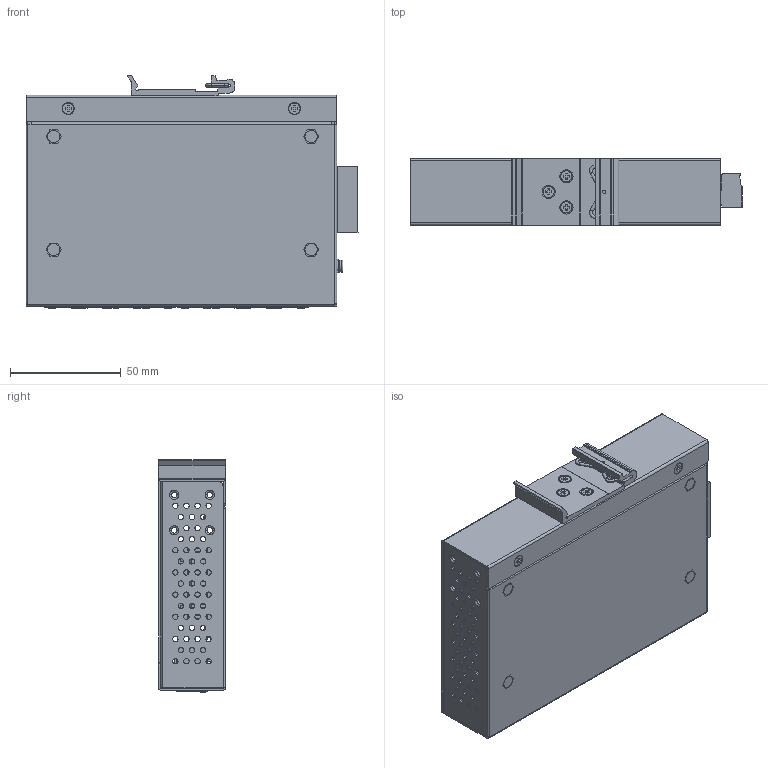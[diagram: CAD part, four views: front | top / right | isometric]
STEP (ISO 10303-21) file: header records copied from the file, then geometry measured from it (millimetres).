
FILE_DESCRIPTION((''),'2;1');
FILE_NAME('ET2-0800_ASM','2020-02-17T',('ASUS'),(''),'PRO/ENGINEER BY PARAMETRIC TECHNOLOGY CORPORATION, 2009440','PRO/ENGINEER BY PARAMETRIC TECHNOLOGY CORPORATION, 2009440','');
FILE_SCHEMA(('CONFIG_CONTROL_DESIGN'));
Length unit declared in the file: millimetre
Products named in the file (23): PRT0001; PRT0002; ASM0005_ASM; PRT0003; PRT0004; PRT0005; PRT0006; ASM0006_ASM; ASM0004_ASM; PRT0007; PRT0008; PRT0009; ASM0007_ASM; PRT0010; PRT0011; ASM0003_ASM; PRT0012; ASM0009_ASM; ASM0008_ASM; PRT0013; PRT0014; ASM0002_ASM; ET2-0800_ASM
Assembly tree (37 placements, depth 6):
  ET2-0800_ASM
    ASM0002_ASM
      ASM0003_ASM
        ASM0004_ASM
          ASM0005_ASM
            PRT0001
            PRT0002
          PRT0003
          PRT0004  x4
          ASM0006_ASM
            PRT0005
            PRT0006
            PRT0004  x4
        ASM0007_ASM
          PRT0007
          PRT0008  x2
          PRT0009
        PRT0010  x4
        PRT0011  x5
      ASM0008_ASM
        ASM0009_ASM
          PRT0012
      PRT0013
      PRT0014
Bounding box: 149.64 x 30 x 104.8 mm (x, y, z)
Volume: 76297.3 mm3; surface area: 112433 mm2
Topology: 29 solids, 29 shells, 2127 faces, 5434 edges, 3431 vertices
Faces by surface type: plane 1140, cylinder 671, cone 140, torus 128, sphere 34, bspline 14
Entity records: 56918 total; most frequent: CARTESIAN_POINT 13256, DIRECTION 9428, ORIENTED_EDGE 8740, EDGE_CURVE 4370, AXIS2_PLACEMENT_3D 3356, VERTEX_POINT 2788, VECTOR 2716, LINE 2716
